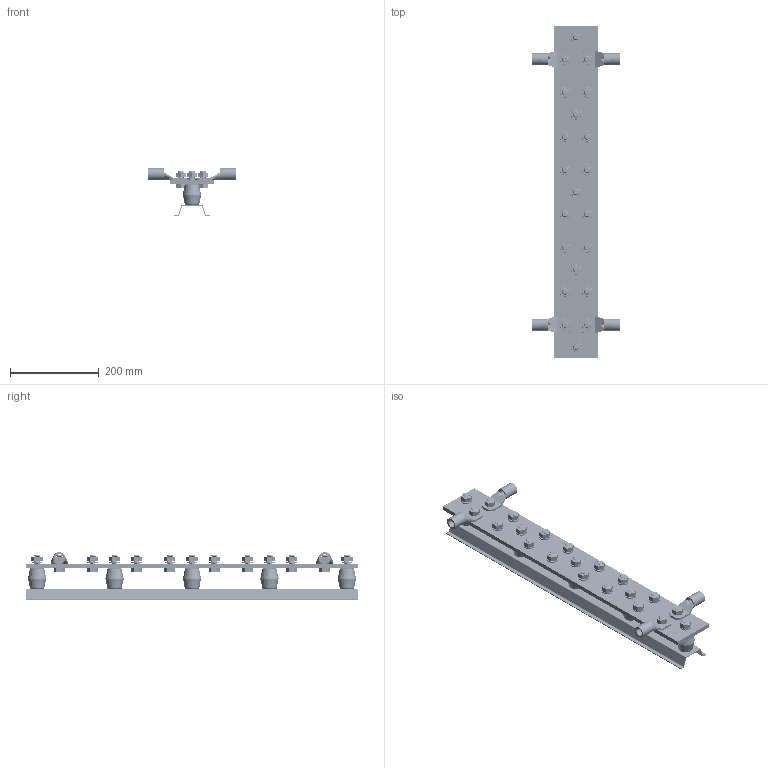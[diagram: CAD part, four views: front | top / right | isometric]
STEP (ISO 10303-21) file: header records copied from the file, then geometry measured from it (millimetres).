
FILE_DESCRIPTION(/* description */ (''),/* implementation_level */ '2;1');
FILE_NAME(/* name */ 'GE-BARA.step',/* time_stamp */ '2025-12-16T16:23:07+03:00',/* author */ (''),/* organization */ (''),/* preprocessor_version */ 'ST-DEVELOPER v20.1',/* originating_system */ 'Autodesk Translation Framework v14.21.0.0',/* authorisation */ '');
FILE_SCHEMA (('AUTOMOTIVE_DESIGN { 1 0 10303 214 3 1 1 }'));
Length unit declared in the file: millimetre
Products named in the file (11): BARA- 750-100-10; BARA-675; GE-BARA-L500; lug; 90592A032_Steel Hex Nut(Mirror); 98689A119_General Purpose 18-8 Stainless Steel Washer(Mirror); 91280A213_Medium-Strength Class 8.8 Steel Hex Head Screw(Mirror); lug_1; 6926K88_Compression Lug; lug v2(Mirror); 6926K88_Compression Lug(Mirror)
Assembly tree (76 placements, depth 3):
  BARA- 750-100-10
    GE-BARA-L500  x5
    BARA-675
    90592A032_Steel Hex Nut(Mirror)  x21
    98689A119_General Purpose 18-8 Stainless Steel Washer(Mirror)  x21
    91280A213_Medium-Strength Class 8.8 Steel Hex Head Screw(Mirror)  x21
    lug
      6926K88_Compression Lug
    lug v2(Mirror)  x2
      6926K88_Compression Lug(Mirror)
    lug_1
      6926K88_Compression Lug
Bounding box: 197.83 x 750 x 107.92 mm (x, y, z)
Volume: 1482303.5 mm3; surface area: 567153.9 mm2
Topology: 79 solids, 79 shells, 3075 faces, 7730 edges, 4969 vertices
Faces by surface type: cylinder 988, bspline 792, plane 714, cone 535, torus 46
Full cylindrical faces by diameter (mm): 10 x21, 11.402 x336, 14 x378, 15 x21, 15.875 x4, 17.958 x4, 24 x21, 26.924 x4
Entity records: 15957 total; most frequent: CARTESIAN_POINT 8845, ORIENTED_EDGE 1424, DIRECTION 1321, EDGE_CURVE 712, AXIS2_PLACEMENT_3D 534, VERTEX_POINT 459, EDGE_LOOP 337, FACE_OUTER_BOUND 277
